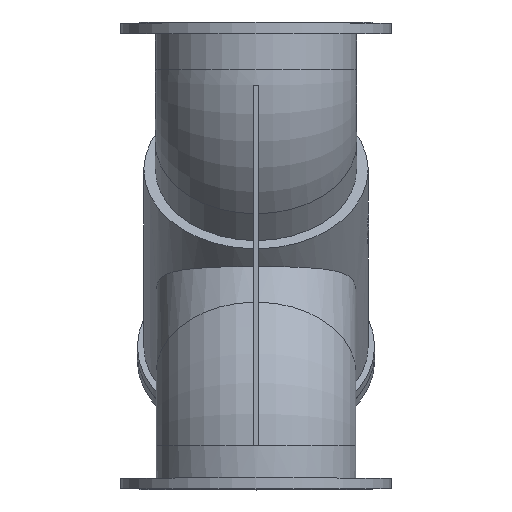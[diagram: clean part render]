
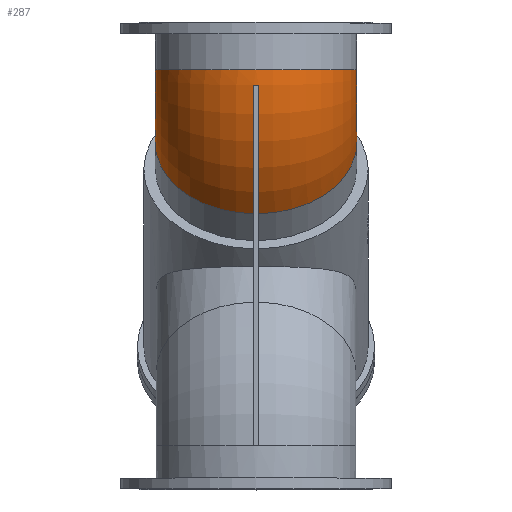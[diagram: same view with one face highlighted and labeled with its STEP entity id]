
A CAD part, top view. The second image highlights one B-rep face of the part: STEP entity #287.
In plain terms, the highlighted toroidal (fillet/blend) face has major radius 320 mm and minor radius 312 mm.
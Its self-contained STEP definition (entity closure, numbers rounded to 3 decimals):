
#287=ADVANCED_FACE('',(#1203,#1205),#1207,.T.);
#1203=FACE_BOUND('',#1204,.T.);
#1204=EDGE_LOOP('',(#2193,#2194,#2195,#2196,#2197));
#1205=FACE_OUTER_BOUND('',#1206,.T.);
#1206=EDGE_LOOP('',(#2198));
#1207=TOROIDAL_SURFACE('',#1208,320.,312.);
#1208=AXIS2_PLACEMENT_3D('',#1209,#1210,#1211);
#1209=CARTESIAN_POINT('',(0.,577.548,-320.));
#1210=DIRECTION('',(1.,0.,0.));
#1211=DIRECTION('',(0.,0.,1.));
#2193=ORIENTED_EDGE('',*,*,#2524,.F.);
#2194=ORIENTED_EDGE('',*,*,#2536,.F.);
#2195=ORIENTED_EDGE('',*,*,#2515,.F.);
#2196=ORIENTED_EDGE('',*,*,#2534,.F.);
#2197=ORIENTED_EDGE('',*,*,#2533,.F.);
#2198=ORIENTED_EDGE('',*,*,#2537,.T.);
#2515=EDGE_CURVE('',#2752,#2754,#2755,.T.);
#2524=EDGE_CURVE('',#2768,#2770,#2771,.F.);
#2533=EDGE_CURVE('',#2770,#2784,#2785,.F.);
#2534=EDGE_CURVE('',#2784,#2752,#2786,.T.);
#2536=EDGE_CURVE('',#2754,#2768,#2788,.T.);
#2537=EDGE_CURVE('',#2789,#2789,#2790,.T.);
#2752=VERTEX_POINT('',#4028);
#2754=VERTEX_POINT('',#4032);
#2755=CIRCLE('',#4033,631.91);
#2768=VERTEX_POINT('',#4066);
#2770=VERTEX_POINT('',#4070);
#2771=CIRCLE('',#4071,631.91);
#2784=VERTEX_POINT('',#4108);
#2785=B_SPLINE_CURVE_WITH_KNOTS('',3,
(#4109,#4110,#4111,#4112,#4113,#4114,#4115,#4116,#4117,#4118,#4119,#4120,#4121,#4122,
#4123,#4124,#4125,#4126,#4127,#4128,#4129,#4130),
.UNSPECIFIED.,.F.,.F.,
(4,1,1,1,1,1,1,1,1,1,1,1,1,1,1,1,1,1,1,4),
(0.,0.063,0.126,0.189,0.206,0.252,
0.315,0.378,0.441,0.503,0.566,
0.618,0.628,0.691,0.753,0.815,
0.877,0.912,0.938,1.),
.UNSPECIFIED.);
#2786=B_SPLINE_CURVE_WITH_KNOTS('',3,
(#4131,#4132,#4133,#4134,#4135,#4136,#4137,#4138,#4139,#4140,#4141,#4142,#4143,#4144,
#4145,#4146,#4147,#4148,#4149,#4150,#4151,#4152),
.UNSPECIFIED.,.F.,.F.,
(4,1,1,1,1,1,1,1,1,1,1,1,1,1,1,1,1,1,1,4),
(0.,0.063,0.126,0.189,0.206,0.252,
0.315,0.378,0.441,0.503,0.566,
0.618,0.628,0.691,0.753,0.815,
0.877,0.912,0.938,1.),
.UNSPECIFIED.);
#2788=CIRCLE('',#4156,312.);
#2789=VERTEX_POINT('',#4160);
#2790=CIRCLE('',#4161,312.);
#4028=CARTESIAN_POINT('',(-7.5,528.456,310.));
#4032=CARTESIAN_POINT('',(-7.5,130.721,126.828));
#4033=AXIS2_PLACEMENT_3D('',#4034,#4035,#4036);
#4034=CARTESIAN_POINT('',(-7.5,577.548,-320.));
#4035=DIRECTION('',(1.,0.,0.));
#4036=DIRECTION('',(0.,-0.078,0.997));
#4066=CARTESIAN_POINT('',(7.5,130.721,126.828));
#4070=CARTESIAN_POINT('',(7.5,528.456,310.));
#4071=AXIS2_PLACEMENT_3D('',#4072,#4073,#4074);
#4072=CARTESIAN_POINT('',(7.5,577.548,-320.));
#4073=DIRECTION('',(1.,0.,0.));
#4074=DIRECTION('',(0.,-0.078,0.997));
#4108=CARTESIAN_POINT('',(0.,527.309,310.));
#4109=CARTESIAN_POINT('',(0.,527.309,310.));
#4110=CARTESIAN_POINT('',(0.16,527.309,310.));
#4111=CARTESIAN_POINT('',(0.481,527.312,310.));
#4112=CARTESIAN_POINT('',(0.961,527.326,310.));
#4113=CARTESIAN_POINT('',(1.324,527.344,310.));
#4114=CARTESIAN_POINT('',(1.644,527.363,310.));
#4115=CARTESIAN_POINT('',(1.963,527.386,310.));
#4116=CARTESIAN_POINT('',(2.398,527.423,310.));
#4117=CARTESIAN_POINT('',(2.874,527.474,310.));
#4118=CARTESIAN_POINT('',(3.348,527.534,310.));
#4119=CARTESIAN_POINT('',(3.818,527.602,310.));
#4120=CARTESIAN_POINT('',(4.26,527.675,310.));
#4121=CARTESIAN_POINT('',(4.571,527.732,310.));
#4122=CARTESIAN_POINT('',(4.881,527.791,310.));
#4123=CARTESIAN_POINT('',(5.216,527.859,310.));
#4124=CARTESIAN_POINT('',(5.677,527.962,310.));
#4125=CARTESIAN_POINT('',(6.136,528.072,310.));
#4126=CARTESIAN_POINT('',(6.528,528.175,310.));
#4127=CARTESIAN_POINT('',(6.832,528.258,310.));
#4128=CARTESIAN_POINT('',(7.134,528.345,310.));
#4129=CARTESIAN_POINT('',(7.349,528.409,310.));
#4130=CARTESIAN_POINT('',(7.5,528.456,310.));
#4131=CARTESIAN_POINT('',(0.,527.309,310.));
#4132=CARTESIAN_POINT('',(-0.16,527.309,310.));
#4133=CARTESIAN_POINT('',(-0.481,527.312,310.));
#4134=CARTESIAN_POINT('',(-0.961,527.326,310.));
#4135=CARTESIAN_POINT('',(-1.324,527.344,310.));
#4136=CARTESIAN_POINT('',(-1.644,527.363,310.));
#4137=CARTESIAN_POINT('',(-1.963,527.386,310.));
#4138=CARTESIAN_POINT('',(-2.398,527.423,310.));
#4139=CARTESIAN_POINT('',(-2.874,527.474,310.));
#4140=CARTESIAN_POINT('',(-3.348,527.534,310.));
#4141=CARTESIAN_POINT('',(-3.818,527.602,310.));
#4142=CARTESIAN_POINT('',(-4.26,527.675,310.));
#4143=CARTESIAN_POINT('',(-4.571,527.732,310.));
#4144=CARTESIAN_POINT('',(-4.881,527.791,310.));
#4145=CARTESIAN_POINT('',(-5.216,527.859,310.));
#4146=CARTESIAN_POINT('',(-5.677,527.962,310.));
#4147=CARTESIAN_POINT('',(-6.136,528.072,310.));
#4148=CARTESIAN_POINT('',(-6.528,528.175,310.));
#4149=CARTESIAN_POINT('',(-6.832,528.258,310.));
#4150=CARTESIAN_POINT('',(-7.134,528.345,310.));
#4151=CARTESIAN_POINT('',(-7.349,528.409,310.));
#4152=CARTESIAN_POINT('',(-7.5,528.456,310.));
#4156=AXIS2_PLACEMENT_3D('',#4157,#4158,#4159);
#4157=CARTESIAN_POINT('',(0.,351.274,-93.726));
#4158=DIRECTION('',(0.,-0.707,-0.707));
#4159=DIRECTION('',(-0.024,-0.707,0.707));
#4160=CARTESIAN_POINT('',(0.,577.548,312.));
#4161=AXIS2_PLACEMENT_3D('',#4162,#4163,#4164);
#4162=CARTESIAN_POINT('',(0.,577.548,0.));
#4163=DIRECTION('',(0.,-1.,0.));
#4164=DIRECTION('',(0.,0.,1.));
